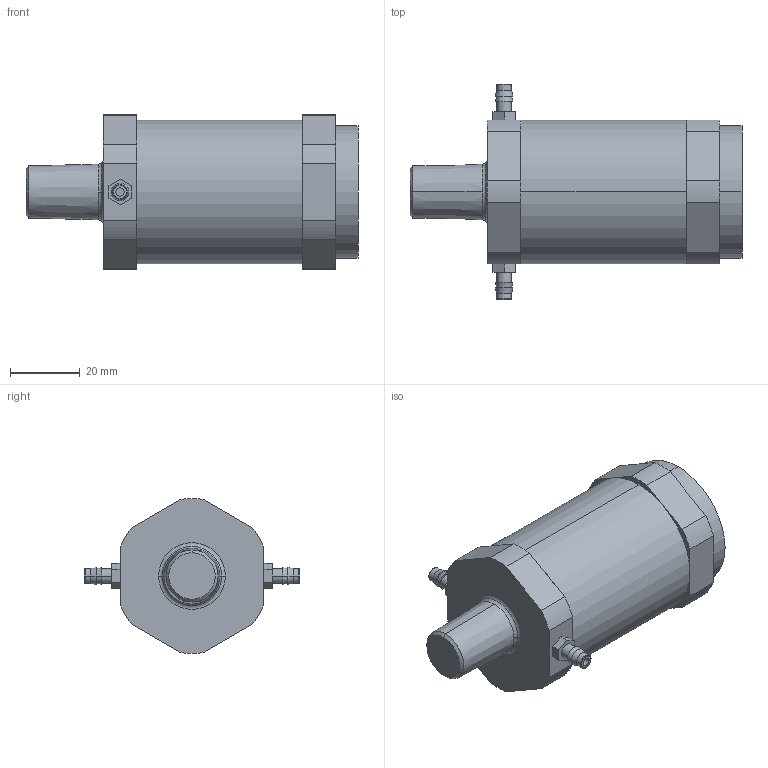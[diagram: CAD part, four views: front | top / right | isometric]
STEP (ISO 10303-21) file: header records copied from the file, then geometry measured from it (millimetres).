
FILE_DESCRIPTION((''),'2;1');
FILE_NAME('UCR4_ASM','2017-08-24T',('jennifer.elliott'),('CenterLine (Windsor) Ltd - Automation Components Division'),'PRO/ENGINEER BY PARAMETRIC TECHNOLOGY CORPORATION, 2015030','PRO/ENGINEER BY PARAMETRIC TECHNOLOGY CORPORATION, 2015030','');
FILE_SCHEMA(('AUTOMOTIVE_DESIGN { 1 0 10303 214 1 1 1 1 }'));
Length unit declared in the file: inch
Products named in the file (7): PRT0076; PRT0077; PRT0078; PRT0079; PRT0080; PRT0081; UCR4_ASM
Assembly tree (6 placements, depth 2):
  UCR4_ASM
    PRT0076
    PRT0077
    PRT0078
    PRT0079
    PRT0080
    PRT0081
Bounding box: 95.25 x 61.9 x 44.45 mm (x, y, z)
Volume: 103025.5 mm3; surface area: 21916.9 mm2
Topology: 6 solids, 6 shells, 95 faces, 237 edges, 161 vertices
Faces by surface type: plane 43, cylinder 28, cone 12, torus 12
Entity records: 3359 total; most frequent: DIRECTION 578, CARTESIAN_POINT 525, ORIENTED_EDGE 474, EDGE_CURVE 237, AXIS2_PLACEMENT_3D 233, VERTEX_POINT 161, CIRCLE 125, VECTOR 112
